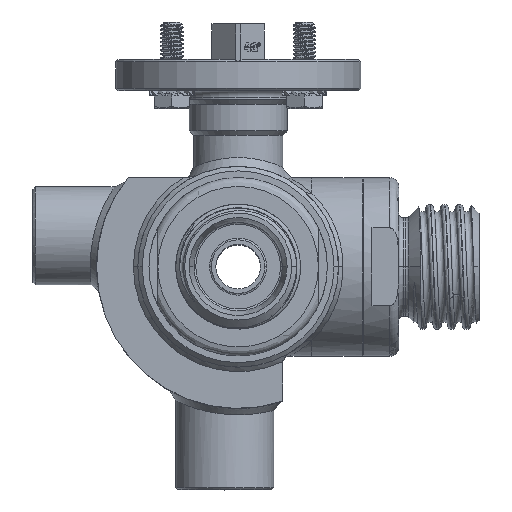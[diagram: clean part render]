
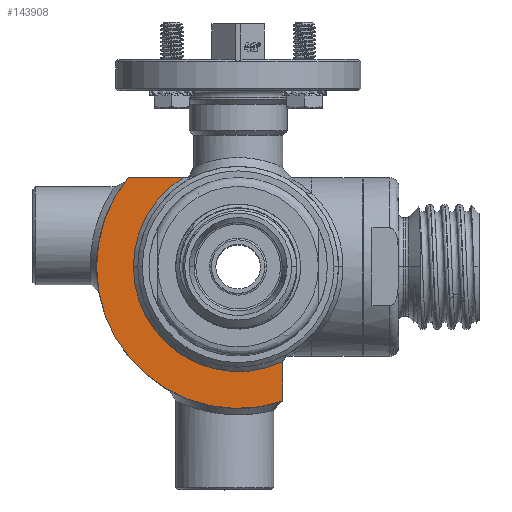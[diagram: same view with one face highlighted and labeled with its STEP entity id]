
A CAD part, top view. The second image highlights one B-rep face of the part: STEP entity #143908.
In plain terms, the highlighted planar face has unit normal (0, 0, 1).
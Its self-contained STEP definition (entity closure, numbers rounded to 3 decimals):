
#143779=DIRECTION('',(-1.,0.,0.));
#143780=VECTOR('',#143779,14.351);
#143781=CARTESIAN_POINT('',(-10.308,20.,24.));
#143782=LINE('',#143781,#143780);
#143786=CARTESIAN_POINT('',(0.,0.,24.));
#143787=DIRECTION('',(0.,0.,-1.));
#143788=DIRECTION('',(0.444,-0.896,0.));
#143789=AXIS2_PLACEMENT_3D('',#143786,#143787,#143788);
#143794=DIRECTION('',(0.,1.,0.));
#143795=VECTOR('',#143794,9.978);
#143796=CARTESIAN_POINT('',(10.,-30.134,24.));
#143797=LINE('',#143796,#143795);
#143801=CARTESIAN_POINT('',(0.,0.,24.));
#143802=DIRECTION('',(0.,0.,1.));
#143803=DIRECTION('',(-0.777,0.63,0.));
#143804=AXIS2_PLACEMENT_3D('',#143801,#143802,#143803);
#143817=CARTESIAN_POINT('',(-10.308,20.,24.));
#143818=CARTESIAN_POINT('',(-24.659,20.,24.));
#143819=VERTEX_POINT('',#143817);
#143820=VERTEX_POINT('',#143818);
#143821=CARTESIAN_POINT('',(10.,-30.134,24.));
#143822=VERTEX_POINT('',#143821);
#143823=CARTESIAN_POINT('',(10.,-20.156,24.));
#143824=VERTEX_POINT('',#143823);
#143897=CARTESIAN_POINT('',(0.,0.,24.));
#143898=DIRECTION('',(0.,0.,1.));
#143899=DIRECTION('',(1.,0.,0.));
#143900=AXIS2_PLACEMENT_3D('',#143897,#143898,#143899);
#143901=PLANE('',#143900);
#143902=ORIENTED_EDGE('',*,*,#143849,.F.);
#143903=ORIENTED_EDGE('',*,*,#143864,.F.);
#143904=ORIENTED_EDGE('',*,*,#143878,.F.);
#143905=ORIENTED_EDGE('',*,*,#143891,.F.);
#143906=EDGE_LOOP('',(#143902,#143903,#143904,#143905));
#143907=FACE_OUTER_BOUND('',#143906,.F.);
#143908=ADVANCED_FACE('',(#143907),#143901,.T.);
#143790=CIRCLE('',#143789,22.5);
#143805=CIRCLE('',#143804,31.75);
#143849=EDGE_CURVE('',#143819,#143820,#143782,.T.);
#143864=EDGE_CURVE('',#143824,#143819,#143790,.T.);
#143878=EDGE_CURVE('',#143822,#143824,#143797,.T.);
#143891=EDGE_CURVE('',#143820,#143822,#143805,.T.);
